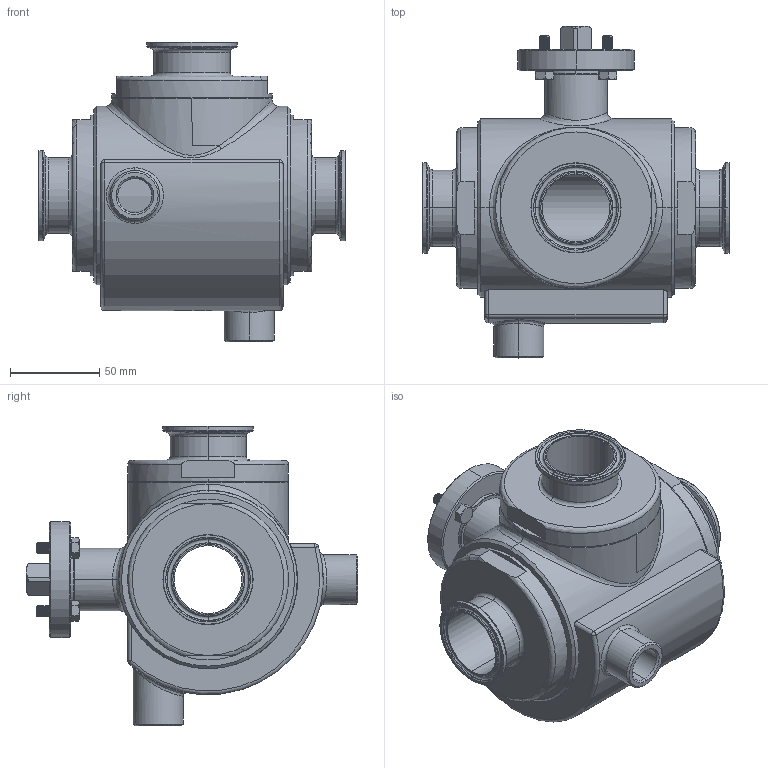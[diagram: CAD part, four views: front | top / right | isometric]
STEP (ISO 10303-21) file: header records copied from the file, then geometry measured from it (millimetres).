
FILE_DESCRIPTION((''),'2;1');
FILE_NAME('303030C63510','2024-05-15T09:16:27',('alfio.taboni'),('CDM Tecnoconsulting'),'CREO PARAMETRIC BY PTC INC, 2023374','CREO PARAMETRIC BY PTC INC, 2023374','');
FILE_SCHEMA(('CONFIG_CONTROL_DESIGN','SHAPE_APPEARANCE_LAYERS_GROUPS'));
Products named in the file (1): 303030C63510
Bounding box: 172.01 x 186 x 168.01 mm (x, y, z)
Volume: 979245.6 mm3; surface area: 249131.4 mm2
Topology: 3 solids, 3 shells, 1223 faces, 3227 edges, 2052 vertices
Faces by surface type: cylinder 411, plane 314, bspline 156, cone 155, extrusion 107, torus 74, sphere 6
Entity records: 118278 total; most frequent: CARTESIAN_POINT 77343, ORIENTED_EDGE 6434, DIRECTION 4716, PRESENTATION_STYLE_ASSIGNMENT 3759, STYLED_ITEM 3327, CURVE_STYLE 3324, EDGE_CURVE 3217, VERTEX_POINT 2052
